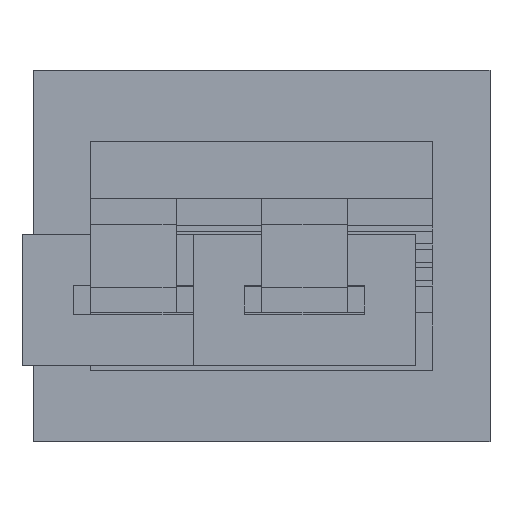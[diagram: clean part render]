
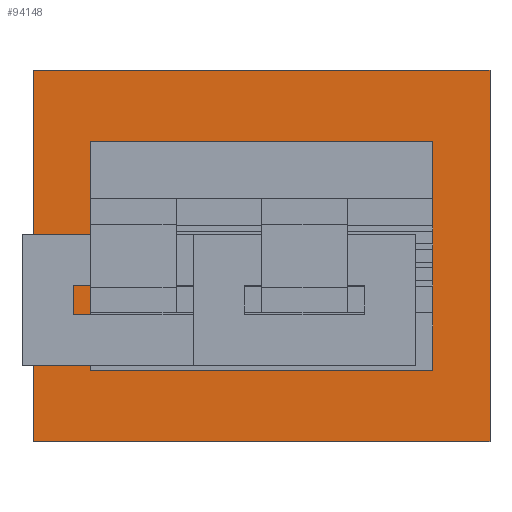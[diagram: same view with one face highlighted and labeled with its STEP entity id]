
A CAD part, top view. The second image highlights one B-rep face of the part: STEP entity #94148.
In plain terms, the highlighted planar face has unit normal (0, 0, 1).
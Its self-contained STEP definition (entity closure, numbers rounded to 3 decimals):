
#93834 = VERTEX_POINT('',#93835);
#93835 = CARTESIAN_POINT('',(-10.,-32.5,45.));
#93842 = PLANE('',#93843);
#93843 = AXIS2_PLACEMENT_3D('',#93844,#93845,#93846);
#93844 = CARTESIAN_POINT('',(-10.,-32.5,37.));
#93845 = DIRECTION('',(1.,0.,0.));
#93846 = DIRECTION('',(0.,0.,1.));
#93854 = PLANE('',#93855);
#93855 = AXIS2_PLACEMENT_3D('',#93856,#93857,#93858);
#93856 = CARTESIAN_POINT('',(-10.,-32.5,37.));
#93857 = DIRECTION('',(0.,1.,0.));
#93858 = DIRECTION('',(0.,0.,1.));
#93895 = VERTEX_POINT('',#93896);
#93896 = CARTESIAN_POINT('',(-10.,32.5,45.));
#93910 = PLANE('',#93911);
#93911 = AXIS2_PLACEMENT_3D('',#93912,#93913,#93914);
#93912 = CARTESIAN_POINT('',(-10.,32.5,37.));
#93913 = DIRECTION('',(0.,1.,0.));
#93914 = DIRECTION('',(0.,0.,1.));
#93922 = EDGE_CURVE('',#93834,#93895,#93923,.T.);
#93923 = SURFACE_CURVE('',#93924,(#93928,#93935),.PCURVE_S1.);
#93924 = LINE('',#93925,#93926);
#93925 = CARTESIAN_POINT('',(-10.,-32.5,45.));
#93926 = VECTOR('',#93927,1.);
#93927 = DIRECTION('',(0.,1.,0.));
#93928 = PCURVE('',#93842,#93929);
#93929 = DEFINITIONAL_REPRESENTATION('',(#93930),#93934);
#93930 = LINE('',#93931,#93932);
#93931 = CARTESIAN_POINT('',(8.,0.));
#93932 = VECTOR('',#93933,1.);
#93933 = DIRECTION('',(0.,-1.));
#93934 = ( GEOMETRIC_REPRESENTATION_CONTEXT(2) 
PARAMETRIC_REPRESENTATION_CONTEXT() REPRESENTATION_CONTEXT('2D SPACE',''
  ) );
#93935 = PCURVE('',#93936,#93941);
#93936 = PLANE('',#93937);
#93937 = AXIS2_PLACEMENT_3D('',#93938,#93939,#93940);
#93938 = CARTESIAN_POINT('',(-10.,-32.5,45.));
#93939 = DIRECTION('',(0.,0.,1.));
#93940 = DIRECTION('',(1.,0.,0.));
#93941 = DEFINITIONAL_REPRESENTATION('',(#93942),#93946);
#93942 = LINE('',#93943,#93944);
#93943 = CARTESIAN_POINT('',(0.,0.));
#93944 = VECTOR('',#93945,1.);
#93945 = DIRECTION('',(0.,1.));
#93946 = ( GEOMETRIC_REPRESENTATION_CONTEXT(2) 
PARAMETRIC_REPRESENTATION_CONTEXT() REPRESENTATION_CONTEXT('2D SPACE',''
  ) );
#93954 = VERTEX_POINT('',#93955);
#93955 = CARTESIAN_POINT('',(70.,-32.5,45.));
#93962 = PLANE('',#93963);
#93963 = AXIS2_PLACEMENT_3D('',#93964,#93965,#93966);
#93964 = CARTESIAN_POINT('',(70.,-32.5,37.));
#93965 = DIRECTION('',(1.,0.,0.));
#93966 = DIRECTION('',(0.,0.,1.));
#94005 = VERTEX_POINT('',#94006);
#94006 = CARTESIAN_POINT('',(70.,32.5,45.));
#94027 = EDGE_CURVE('',#93954,#94005,#94028,.T.);
#94028 = SURFACE_CURVE('',#94029,(#94033,#94040),.PCURVE_S1.);
#94029 = LINE('',#94030,#94031);
#94030 = CARTESIAN_POINT('',(70.,-32.5,45.));
#94031 = VECTOR('',#94032,1.);
#94032 = DIRECTION('',(0.,1.,0.));
#94033 = PCURVE('',#93962,#94034);
#94034 = DEFINITIONAL_REPRESENTATION('',(#94035),#94039);
#94035 = LINE('',#94036,#94037);
#94036 = CARTESIAN_POINT('',(8.,0.));
#94037 = VECTOR('',#94038,1.);
#94038 = DIRECTION('',(0.,-1.));
#94039 = ( GEOMETRIC_REPRESENTATION_CONTEXT(2) 
PARAMETRIC_REPRESENTATION_CONTEXT() REPRESENTATION_CONTEXT('2D SPACE',''
  ) );
#94040 = PCURVE('',#93936,#94041);
#94041 = DEFINITIONAL_REPRESENTATION('',(#94042),#94046);
#94042 = LINE('',#94043,#94044);
#94043 = CARTESIAN_POINT('',(80.,0.));
#94044 = VECTOR('',#94045,1.);
#94045 = DIRECTION('',(0.,1.));
#94046 = ( GEOMETRIC_REPRESENTATION_CONTEXT(2) 
PARAMETRIC_REPRESENTATION_CONTEXT() REPRESENTATION_CONTEXT('2D SPACE',''
  ) );
#94073 = EDGE_CURVE('',#93834,#93954,#94074,.T.);
#94074 = SURFACE_CURVE('',#94075,(#94079,#94086),.PCURVE_S1.);
#94075 = LINE('',#94076,#94077);
#94076 = CARTESIAN_POINT('',(-10.,-32.5,45.));
#94077 = VECTOR('',#94078,1.);
#94078 = DIRECTION('',(1.,0.,0.));
#94079 = PCURVE('',#93854,#94080);
#94080 = DEFINITIONAL_REPRESENTATION('',(#94081),#94085);
#94081 = LINE('',#94082,#94083);
#94082 = CARTESIAN_POINT('',(8.,0.));
#94083 = VECTOR('',#94084,1.);
#94084 = DIRECTION('',(0.,1.));
#94085 = ( GEOMETRIC_REPRESENTATION_CONTEXT(2) 
PARAMETRIC_REPRESENTATION_CONTEXT() REPRESENTATION_CONTEXT('2D SPACE',''
  ) );
#94086 = PCURVE('',#93936,#94087);
#94087 = DEFINITIONAL_REPRESENTATION('',(#94088),#94092);
#94088 = LINE('',#94089,#94090);
#94089 = CARTESIAN_POINT('',(0.,0.));
#94090 = VECTOR('',#94091,1.);
#94091 = DIRECTION('',(1.,0.));
#94092 = ( GEOMETRIC_REPRESENTATION_CONTEXT(2) 
PARAMETRIC_REPRESENTATION_CONTEXT() REPRESENTATION_CONTEXT('2D SPACE',''
  ) );
#94120 = EDGE_CURVE('',#93895,#94005,#94121,.T.);
#94121 = SURFACE_CURVE('',#94122,(#94126,#94133),.PCURVE_S1.);
#94122 = LINE('',#94123,#94124);
#94123 = CARTESIAN_POINT('',(-10.,32.5,45.));
#94124 = VECTOR('',#94125,1.);
#94125 = DIRECTION('',(1.,0.,0.));
#94126 = PCURVE('',#93910,#94127);
#94127 = DEFINITIONAL_REPRESENTATION('',(#94128),#94132);
#94128 = LINE('',#94129,#94130);
#94129 = CARTESIAN_POINT('',(8.,0.));
#94130 = VECTOR('',#94131,1.);
#94131 = DIRECTION('',(0.,1.));
#94132 = ( GEOMETRIC_REPRESENTATION_CONTEXT(2) 
PARAMETRIC_REPRESENTATION_CONTEXT() REPRESENTATION_CONTEXT('2D SPACE',''
  ) );
#94133 = PCURVE('',#93936,#94134);
#94134 = DEFINITIONAL_REPRESENTATION('',(#94135),#94139);
#94135 = LINE('',#94136,#94137);
#94136 = CARTESIAN_POINT('',(0.,65.));
#94137 = VECTOR('',#94138,1.);
#94138 = DIRECTION('',(1.,0.));
#94139 = ( GEOMETRIC_REPRESENTATION_CONTEXT(2) 
PARAMETRIC_REPRESENTATION_CONTEXT() REPRESENTATION_CONTEXT('2D SPACE',''
  ) );
#94148 = ADVANCED_FACE('',(#94149),#93936,.T.);
#94149 = FACE_BOUND('',#94150,.T.);
#94150 = EDGE_LOOP('',(#94151,#94152,#94153,#94154));
#94151 = ORIENTED_EDGE('',*,*,#93922,.F.);
#94152 = ORIENTED_EDGE('',*,*,#94073,.T.);
#94153 = ORIENTED_EDGE('',*,*,#94027,.T.);
#94154 = ORIENTED_EDGE('',*,*,#94120,.F.);
